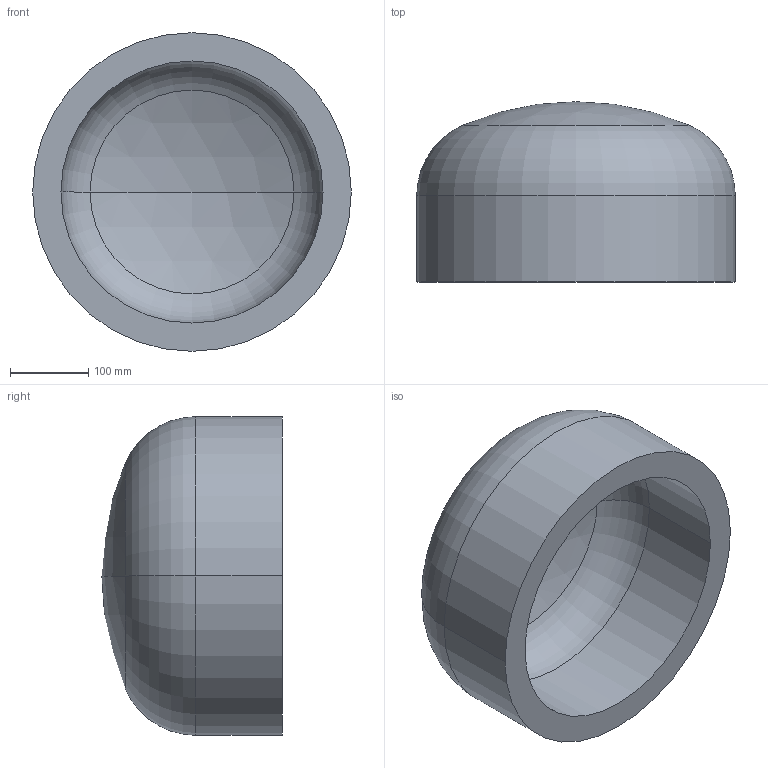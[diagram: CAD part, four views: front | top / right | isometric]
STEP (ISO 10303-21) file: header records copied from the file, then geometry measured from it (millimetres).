
FILE_DESCRIPTION (( 'STEP AP203' ), '1' );
FILE_NAME ('DIN 28013 Korbbogenform_-_Boden DIN 28013 - 406,4 x 110 - I - s=36.step', '2016-07-01T07:50:36', ( '' ), ( '' ), 'SwSTEP 2.0', 'SolidWorks 2013', '' );
FILE_SCHEMA (( 'CONFIG_CONTROL_DESIGN' ));
Length unit declared in the file: millimetre
Products named in the file (1): DIN 28013 Korbbogenform_-_Boden DIN 28013 - 406,4 x 110 - I - s=36
Bounding box: 406.4 x 229.96 x 406.4 mm (x, y, z)
Volume: 10387786 mm3; surface area: 621704.7 mm2
Topology: 1 solids, 1 shells, 13 faces, 24 edges, 14 vertices
Faces by surface type: torus 4, cylinder 4, sphere 4, plane 1
Entity records: 407 total; most frequent: DIRECTION 72, CARTESIAN_POINT 52, ORIENTED_EDGE 48, AXIS2_PLACEMENT_3D 34, EDGE_CURVE 24, CIRCLE 20, VERTEX_POINT 14, EDGE_LOOP 14
